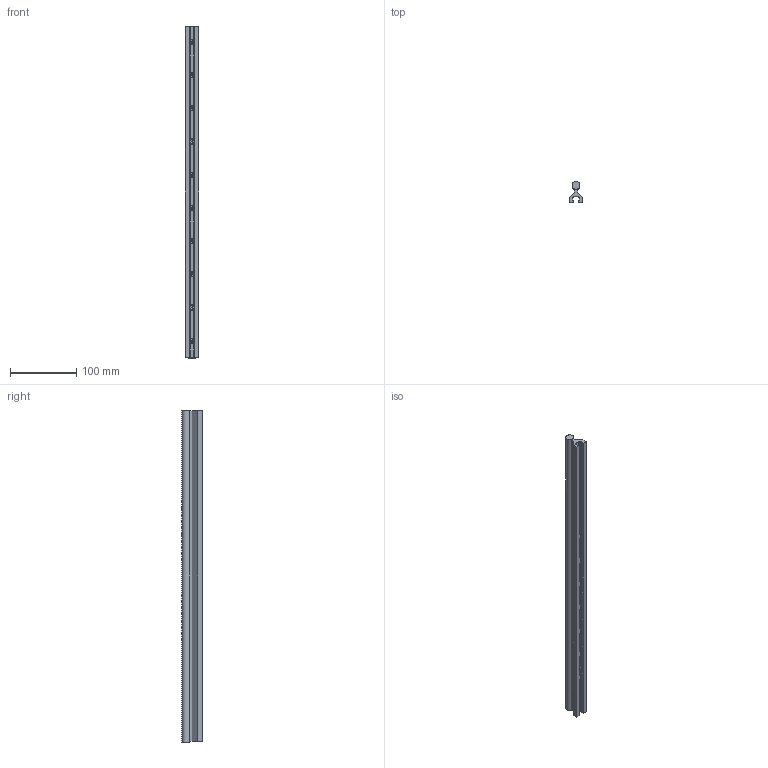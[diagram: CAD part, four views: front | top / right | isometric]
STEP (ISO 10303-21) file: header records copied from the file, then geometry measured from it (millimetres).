
FILE_DESCRIPTION (( 'STEP AP203' ), '1' );
FILE_NAME ('LFS-12-11_-_LFS-12-11 L=498 - ArtNr 220002 0498.step', '2015-05-04T10:55:08', ( '' ), ( '' ), 'SwSTEP 2.0', 'SolidWorks 2014', '' );
FILE_SCHEMA (( 'CONFIG_CONTROL_DESIGN' ));
Length unit declared in the file: millimetre
Products named in the file (1): LFS-12-11_-_LFS-12-11 L=498 - ArtNr 220002 0498
Bounding box: 20 x 31 x 500 mm (x, y, z)
Volume: 150835.1 mm3; surface area: 67885.2 mm2
Topology: 1 solids, 1 shells, 376 faces, 1016 edges, 650 vertices
Faces by surface type: plane 181, cylinder 175, cone 10, torus 10
Full cylindrical faces by diameter (mm): 7 x10, 8 x10, 12 x1
Entity records: 12144 total; most frequent: CARTESIAN_POINT 3480, ORIENTED_EDGE 1908, DIRECTION 1581, EDGE_CURVE 954, VERTEX_POINT 629, AXIS2_PLACEMENT_3D 530, LINE 521, VECTOR 521
